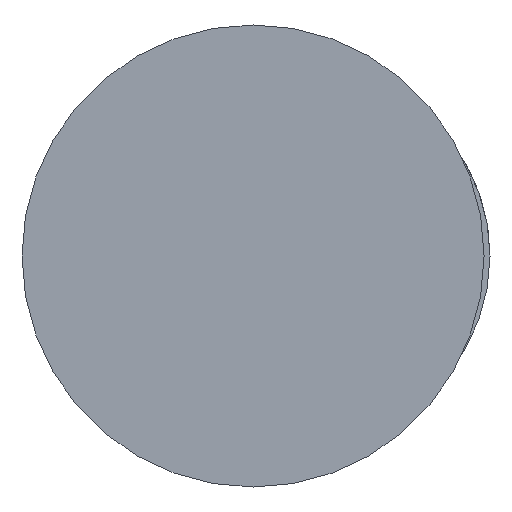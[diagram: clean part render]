
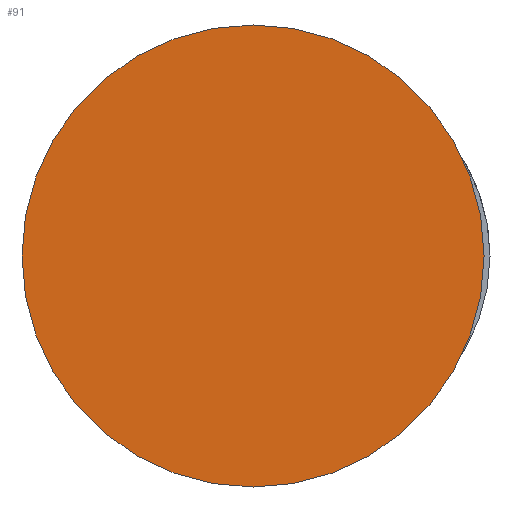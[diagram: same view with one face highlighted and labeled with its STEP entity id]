
A CAD part, left-side view. The second image highlights one B-rep face of the part: STEP entity #91.
In plain terms, the highlighted planar face has unit normal (-1, 0, 0).
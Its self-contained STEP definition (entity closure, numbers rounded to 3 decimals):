
#52=CARTESIAN_POINT('Axis2P3D Location',(0.,0.,0.)) ;
#57=CARTESIAN_POINT('Axis2P3D Location',(0.,0.,0.)) ;
#61=CARTESIAN_POINT('Vertex',(0.,0.,-39.)) ;
#63=CARTESIAN_POINT('Vertex',(0.,39.,0.)) ;
#66=CARTESIAN_POINT('Axis2P3D Location',(0.,0.,0.)) ;
#70=CARTESIAN_POINT('Vertex',(0.,-39.,0.)) ;
#73=CARTESIAN_POINT('Axis2P3D Location',(0.,0.,0.)) ;
#77=CARTESIAN_POINT('Vertex',(0.,0.,39.)) ;
#80=CARTESIAN_POINT('Axis2P3D Location',(0.,0.,0.)) ;
#53=DIRECTION('Axis2P3D Direction',(1.,0.,-0.)) ;
#54=DIRECTION('Axis2P3D XDirection',(-0.,0.,-1.)) ;
#58=DIRECTION('Axis2P3D Direction',(1.,0.,-0.)) ;
#67=DIRECTION('Axis2P3D Direction',(1.,0.,-0.)) ;
#74=DIRECTION('Axis2P3D Direction',(1.,0.,-0.)) ;
#81=DIRECTION('Axis2P3D Direction',(1.,0.,-0.)) ;
#55=AXIS2_PLACEMENT_3D('Plane Axis2P3D',#52,#53,#54) ;
#59=AXIS2_PLACEMENT_3D('Circle Axis2P3D',#57,#58,$) ;
#68=AXIS2_PLACEMENT_3D('Circle Axis2P3D',#66,#67,$) ;
#75=AXIS2_PLACEMENT_3D('Circle Axis2P3D',#73,#74,$) ;
#82=AXIS2_PLACEMENT_3D('Circle Axis2P3D',#80,#81,$) ;
#86=ORIENTED_EDGE('',*,*,#65,.F.) ;
#87=ORIENTED_EDGE('',*,*,#72,.F.) ;
#88=ORIENTED_EDGE('',*,*,#79,.F.) ;
#89=ORIENTED_EDGE('',*,*,#84,.F.) ;
#91=ADVANCED_FACE('395PSF-5',(#90),#56,.F.) ;
#60=CIRCLE('generated circle',#59,39.) ;
#69=CIRCLE('generated circle',#68,39.) ;
#76=CIRCLE('generated circle',#75,39.) ;
#83=CIRCLE('generated circle',#82,39.) ;
#65=EDGE_CURVE('',#62,#64,#60,.T.) ;
#72=EDGE_CURVE('',#71,#62,#69,.T.) ;
#79=EDGE_CURVE('',#78,#71,#76,.T.) ;
#84=EDGE_CURVE('',#64,#78,#83,.T.) ;
#85=EDGE_LOOP('',(#86,#87,#88,#89)) ;
#90=FACE_OUTER_BOUND('',#85,.T.) ;
#56=PLANE('Plane',#55) ;
#62=VERTEX_POINT('',#61) ;
#64=VERTEX_POINT('',#63) ;
#71=VERTEX_POINT('',#70) ;
#78=VERTEX_POINT('',#77) ;
